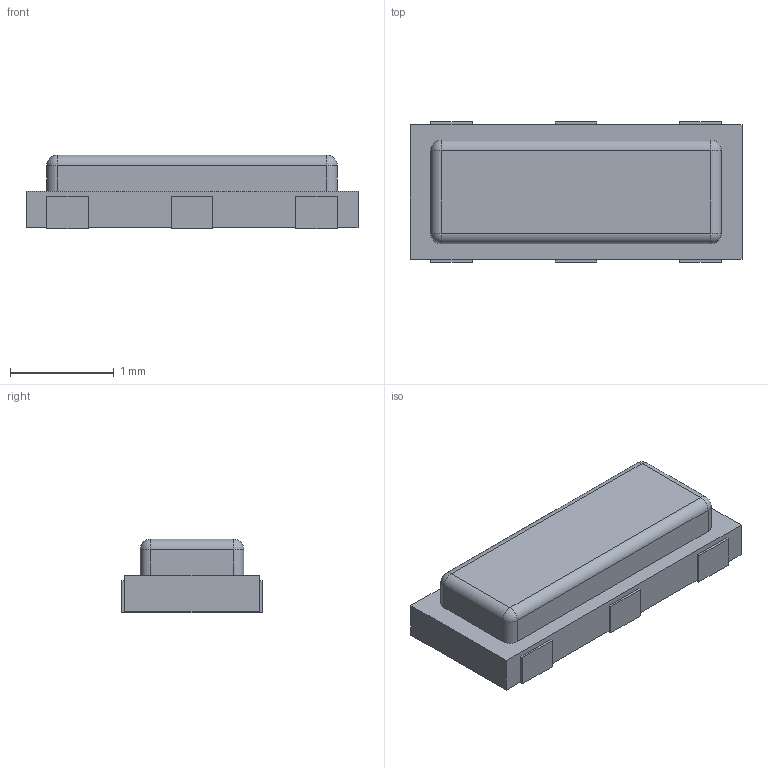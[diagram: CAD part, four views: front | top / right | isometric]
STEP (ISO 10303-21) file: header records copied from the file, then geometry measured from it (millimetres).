
FILE_DESCRIPTION (( 'STEP AP203' ), '1' );
FILE_NAME ('CSTCE Crystal.stp.STEP', '2026-08-19T20:49:49', ( '' ), ( '' ), 'SwSTEP 2.0', 'SolidWorks 2024', '' );
FILE_SCHEMA (( 'CONFIG_CONTROL_DESIGN' ));
Length unit declared in the file: millimetre
Products named in the file (1): CSTCE Crystal.stp
Bounding box: 3.2 x 1.35 x 0.71 mm (x, y, z)
Volume: 2.5 mm3; surface area: 14.1 mm2
Topology: 1 solids, 1 shells, 47 faces, 124 edges, 76 vertices
Faces by surface type: plane 35, cylinder 8, sphere 4
Entity records: 1469 total; most frequent: CARTESIAN_POINT 244, ORIENTED_EDGE 240, DIRECTION 232, EDGE_CURVE 120, LINE 104, VECTOR 104, VERTEX_POINT 76, AXIS2_PLACEMENT_3D 64
